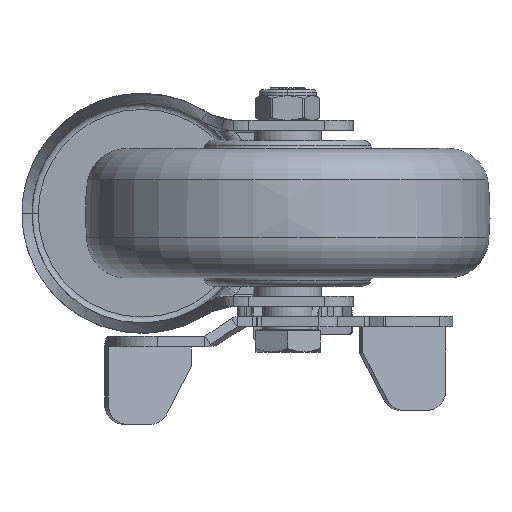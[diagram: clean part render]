
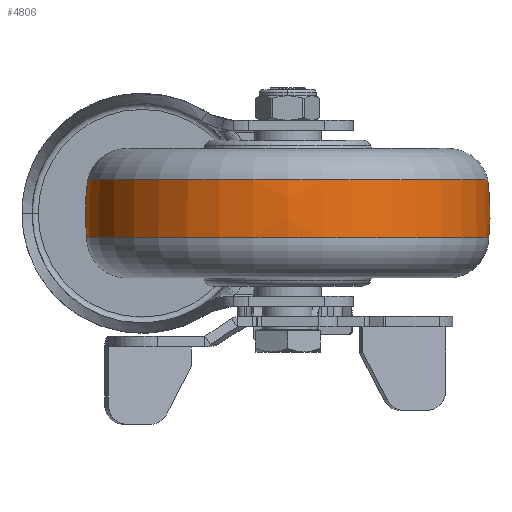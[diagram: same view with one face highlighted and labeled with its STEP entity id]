
A CAD part, front view. The second image highlights one B-rep face of the part: STEP entity #4806.
In plain terms, the highlighted free-form (B-spline) face has degree [3, 3] with [7, 4] control points.
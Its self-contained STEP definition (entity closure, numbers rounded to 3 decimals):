
#4191=CARTESIAN_POINT('',(-6.012,0.,0.));
#4192=DIRECTION('',(-1.,0.,0.));
#4193=DIRECTION('',(0.,1.,0.));
#4194=AXIS2_PLACEMENT_3D('',#4191,#4192,#4193);
#4206=CARTESIAN_POINT('',(0.,-11.437,0.));
#4207=DIRECTION('',(0.,0.,1.));
#4208=DIRECTION('',(0.135,0.991,0.));
#4209=AXIS2_PLACEMENT_3D('',#4206,#4207,#4208);
#4211=CARTESIAN_POINT('',(0.,11.437,0.));
#4212=DIRECTION('',(0.,0.,-1.));
#4213=DIRECTION('',(0.135,-0.991,0.));
#4214=AXIS2_PLACEMENT_3D('',#4211,#4212,#4213);
#4216=CARTESIAN_POINT('',(8.303,0.,0.));
#4217=DIRECTION('',(-1.,0.,0.));
#4218=DIRECTION('',(0.,1.,0.));
#4219=AXIS2_PLACEMENT_3D('',#4216,#4217,#4218);
#4431=CARTESIAN_POINT('',(-6.012,49.697,0.));
#4433=VERTEX_POINT('',#4431);
#4435=CARTESIAN_POINT('',(-6.012,-49.697,
0.));
#4437=VERTEX_POINT('',#4435);
#4464=CARTESIAN_POINT('',(8.303,49.428,0.));
#4466=VERTEX_POINT('',#4464);
#4468=CARTESIAN_POINT('',(8.303,-49.428,
0.));
#4470=VERTEX_POINT('',#4468);
#4770=CARTESIAN_POINT('',(-6.298,-49.57,
3.119));
#4771=CARTESIAN_POINT('',(-1.337,-50.08,
3.151));
#4772=CARTESIAN_POINT('',(3.649,-49.987,3.145));
#4773=CARTESIAN_POINT('',(8.587,-49.291,3.101));
#4774=CARTESIAN_POINT('',(-6.298,-51.489,
-27.387));
#4775=CARTESIAN_POINT('',(-1.337,-52.019,
-27.668));
#4776=CARTESIAN_POINT('',(3.649,-51.922,
-27.617));
#4777=CARTESIAN_POINT('',(8.587,-51.199,
-27.232));
#4778=CARTESIAN_POINT('',(-6.298,-30.566,
-49.668));
#4779=CARTESIAN_POINT('',(-1.337,-30.88,
-50.179));
#4780=CARTESIAN_POINT('',(3.649,-30.823,
-50.085));
#4781=CARTESIAN_POINT('',(8.587,-30.393,
-49.388));
#4782=CARTESIAN_POINT('',(-6.298,0.,-49.668));
#4783=CARTESIAN_POINT('',(-1.337,0.,-50.179));
#4784=CARTESIAN_POINT('',(3.649,0.,
-50.085));
#4785=CARTESIAN_POINT('',(8.587,0.,-49.388));
#4786=CARTESIAN_POINT('',(-6.298,30.566,
-49.668));
#4787=CARTESIAN_POINT('',(-1.337,30.88,
-50.179));
#4788=CARTESIAN_POINT('',(3.649,30.823,-50.085));
#4789=CARTESIAN_POINT('',(8.587,30.393,-49.388));
#4790=CARTESIAN_POINT('',(-6.298,51.489,
-27.387));
#4791=CARTESIAN_POINT('',(-1.337,52.019,
-27.668));
#4792=CARTESIAN_POINT('',(3.649,51.922,-27.617));
#4793=CARTESIAN_POINT('',(8.587,51.199,-27.232));
#4794=CARTESIAN_POINT('',(-6.298,49.57,3.119));
#4795=CARTESIAN_POINT('',(-1.337,50.08,3.151));
#4796=CARTESIAN_POINT('',(3.649,49.987,3.145));
#4797=CARTESIAN_POINT('',(8.587,49.291,3.101));
#4798=(BOUNDED_SURFACE()B_SPLINE_SURFACE(3,3,((#4770,#4771,#4772,#4773),(#4774,
#4775,#4776,#4777),(#4778,#4779,#4780,#4781),(#4782,#4783,#4784,#4785),(#4786,
#4787,#4788,#4789),(#4790,#4791,#4792,#4793),(#4794,#4795,#4796,#4797)),
.UNSPECIFIED.,.F.,.F.,.F.)B_SPLINE_SURFACE_WITH_KNOTS((4,3,4),(4,4),(0.,1.,
2.),(0.,1.),.UNSPECIFIED.)GEOMETRIC_REPRESENTATION_ITEM()RATIONAL_B_SPLINE_SURFACE(((1.192,1.186,1.186,1.192),(
0.941,0.936,0.936,0.941),(
0.941,0.936,0.936,0.941),(
1.192,1.186,1.186,1.192),(
0.941,0.936,0.936,0.941),(
0.941,0.936,0.936,0.941),(
1.192,1.186,1.186,1.192)))REPRESENTATION_ITEM('')SURFACE());
#4799=ORIENTED_EDGE('',*,*,#4760,.T.);
#4800=ORIENTED_EDGE('',*,*,#4713,.T.);
#4801=ORIENTED_EDGE('',*,*,#4764,.F.);
#4803=ORIENTED_EDGE('',*,*,#4802,.F.);
#4804=EDGE_LOOP('',(#4799,#4800,#4801,#4803));
#4805=FACE_OUTER_BOUND('',#4804,.F.);
#4195=CIRCLE('',#4194,49.697);
#4210=CIRCLE('',#4209,61.429);
#4215=CIRCLE('',#4214,61.429);
#4220=CIRCLE('',#4219,49.428);
#4713=EDGE_CURVE('',#4433,#4437,#4195,.T.);
#4760=EDGE_CURVE('',#4466,#4433,#4210,.T.);
#4764=EDGE_CURVE('',#4470,#4437,#4215,.T.);
#4802=EDGE_CURVE('',#4466,#4470,#4220,.T.);
#4806=ADVANCED_FACE('',(#4805),#4798,.T.);
